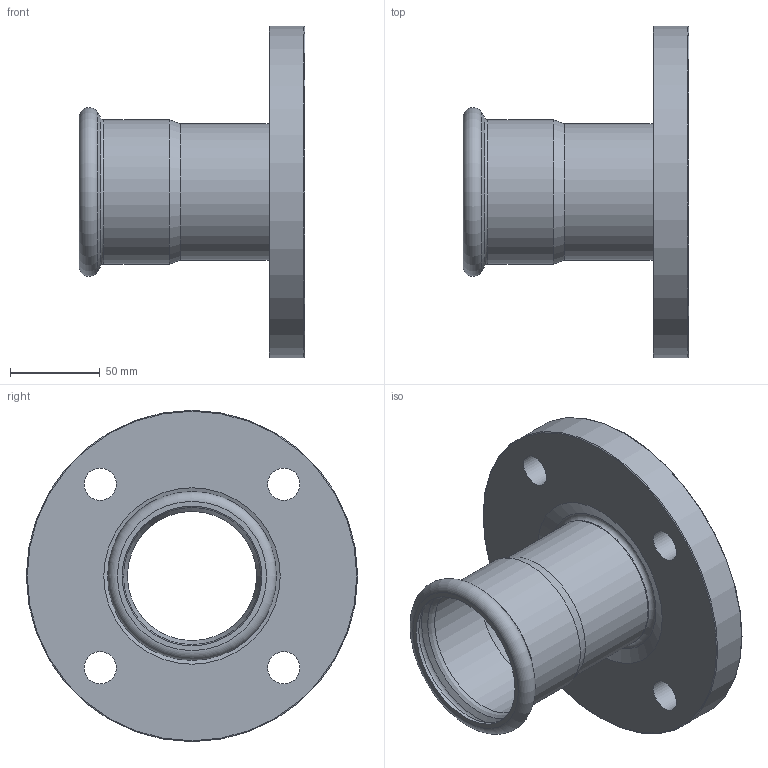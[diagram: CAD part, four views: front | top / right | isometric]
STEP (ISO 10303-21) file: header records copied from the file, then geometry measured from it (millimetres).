
FILE_DESCRIPTION((''),'2;1');
FILE_NAME('G:\Nirosan-Schmiedefeld\Technics\CAD\001 Serie 9.000\076\6VAPF76L4h(1).stp','2017-02-27T14:13:11',('herberg'),(''),'Autodesk Inventor 2009','Autodesk Inventor 2009','');
FILE_SCHEMA(('AUTOMOTIVE_DESIGN { 1 0 10303 214 1 1 1 1 }'));
Length unit declared in the file: millimetre
Products named in the file (3): 6VAPF76L4h(1); 69HMF76p(0); 69FL76145L4p(2)
Assembly tree (2 placements, depth 2):
  6VAPF76L4h(1)
    69HMF76p(0)
    69FL76145L4p(2)
Bounding box: 126 x 185 x 185 mm (x, y, z)
Volume: 484510.2 mm3; surface area: 120842.8 mm2
Topology: 2 solids, 2 shells, 31 faces, 61 edges, 36 vertices
Faces by surface type: cylinder 12, plane 6, cone 6, torus 5, bspline 2
Full cylindrical faces by diameter (mm): 18 x4, 72.1 x2, 76.1 x2, 76.6 x1, 78 x1, 80.6 x1, 185 x1
Entity records: 850 total; most frequent: CARTESIAN_POINT 194, DIRECTION 138, ORIENTED_EDGE 70, EDGE_LOOP 70, AXIS2_PLACEMENT_3D 69, FACE_BOUND 39, VERTEX_POINT 35, CIRCLE 35
